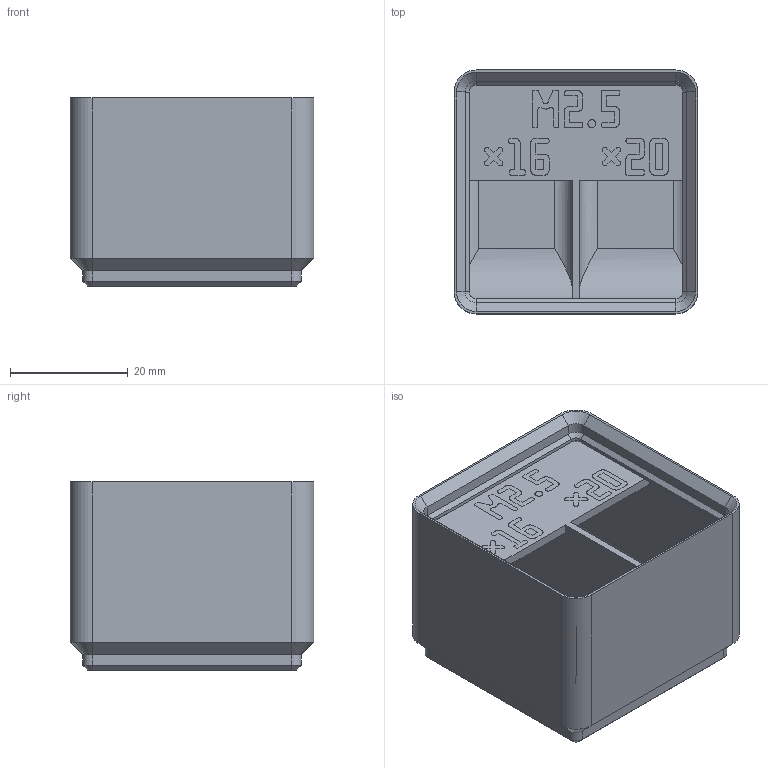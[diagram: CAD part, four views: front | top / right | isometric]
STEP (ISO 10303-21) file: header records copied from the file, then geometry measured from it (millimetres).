
FILE_DESCRIPTION(('Open CASCADE Model'),'2;1');
FILE_NAME('bin_M2.5_16-20','2026-11-03T10:52:06',('Author'),( 'Open CASCADE'),'Open CASCADE STEP processor 8.0','build123d', 'Unknown');
FILE_SCHEMA(('AUTOMOTIVE_DESIGN { 1 0 10303 214 1 1 1 1 }'));
Length unit declared in the file: millimetre
Products named in the file (3): bin_M2.5_16-20; M2.5_16-20_body; M2.5_16-20_label
Assembly tree (2 placements, depth 2):
  bin_M2.5_16-20
    M2.5_16-20_body
    M2.5_16-20_label
Bounding box: 41.5 x 41.5 x 32 mm (x, y, z)
Volume: 21988.3 mm3; surface area: 14301.1 mm2
Topology: 11 solids, 11 shells, 2019 faces, 5888 edges, 3904 vertices
Faces by surface type: plane 1975, cylinder 24, cone 20
Entity records: 142235 total; most frequent: CARTESIAN_POINT 24472, DIRECTION 21499, LINE 17336, VECTOR 17336, ORIENTED_EDGE 11776, PCURVE 11776, DEFINITIONAL_REPRESENTATION 11776, EDGE_CURVE 5888
